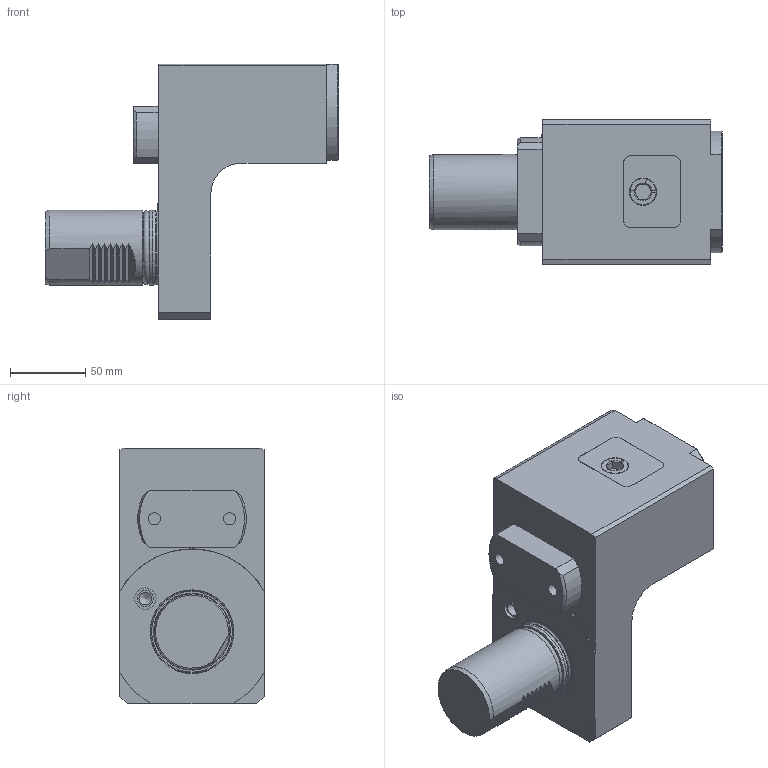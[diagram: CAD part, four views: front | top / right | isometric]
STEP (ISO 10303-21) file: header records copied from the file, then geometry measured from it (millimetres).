
FILE_DESCRIPTION(/* description */ (''),/* implementation_level */ '2;1');
FILE_NAME(/* name */ '197622',/* time_stamp */ '2020-12-10T12:37:35+01:00',/* author */ (''),/* organization */ (''),/* preprocessor_version */ 'ST-DEVELOPER v16.5',/* originating_system */ 'HiCAD 2017 2201.0 Build 268',/* authorisation */ '');
FILE_SCHEMA (('AUTOMOTIVE_DESIGN { 1 0 10303 214 1 1 1 1 }'));
Length unit declared in the file: millimetre
Products named in the file (2): Root; Teil
Assembly tree (1 placements, depth 2):
  Root
    Teil
Bounding box: 195 x 96 x 170 mm (x, y, z)
Volume: 1251132.6 mm3; surface area: 102155.1 mm2
Topology: 1 solids, 7 shells, 196 faces, 497 edges, 331 vertices
Faces by surface type: plane 103, cylinder 64, cone 15, torus 11, bspline 2, sphere 1
Full cylindrical faces by diameter (mm): 3 x1, 8 x2, 8.5 x1, 10.82 x1, 14.18 x1, 14.27 x1, 17.9 x1, 18.2 x1, 39.2 x1, 43.8 x2, 48.7 x1, 50 x3
Entity records: 6318 total; most frequent: CARTESIAN_POINT 1820, DIRECTION 961, ORIENTED_EDGE 884, EDGE_CURVE 442, AXIS2_PLACEMENT_3D 373, VERTEX_POINT 310, FACE_BOUND 252, EDGE_LOOP 251
